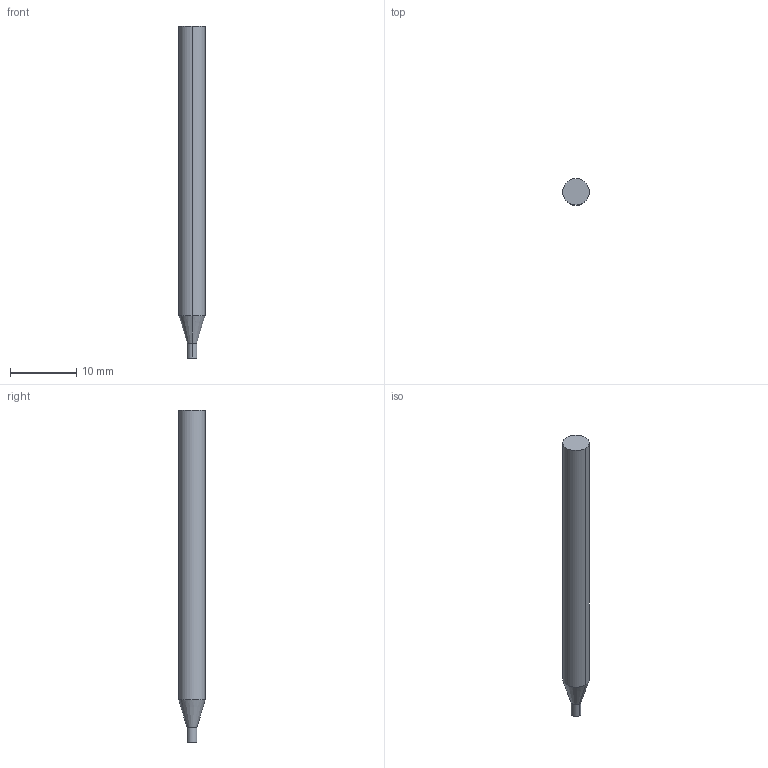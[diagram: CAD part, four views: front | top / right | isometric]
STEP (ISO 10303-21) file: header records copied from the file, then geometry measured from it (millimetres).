
FILE_DESCRIPTION((' '),'2;1');
FILE_NAME( '3MVSM0150AH.stp', '2026-01-21T19:27:20', (' '), ('--- Datakit www.datakit.com---'), ' Datakit CrossCadWare V2025.4 Sep 19 2025', 'Mastercam 2027', ' ');
FILE_SCHEMA(('AUTOMOTIVE_DESIGN { 1 0 10303 214 1 1 1 1 }'));
Length unit declared in the file: inch
Products named in the file (1): 3MVSM0150AH
Bounding box: 4 x 4 x 50 mm (x, y, z)
Volume: 578.8 mm3; surface area: 610.6 mm2
Topology: 1 solids, 1 shells, 8 faces, 14 edges, 8 vertices
Faces by surface type: cylinder 4, plane 2, cone 2
Entity records: 264 total; most frequent: DIRECTION 48, CARTESIAN_POINT 35, ORIENTED_EDGE 28, AXIS2_PLACEMENT_3D 21, EDGE_CURVE 14, VERTEX_POINT 8, CIRCLE 8, EDGE_LOOP 8
